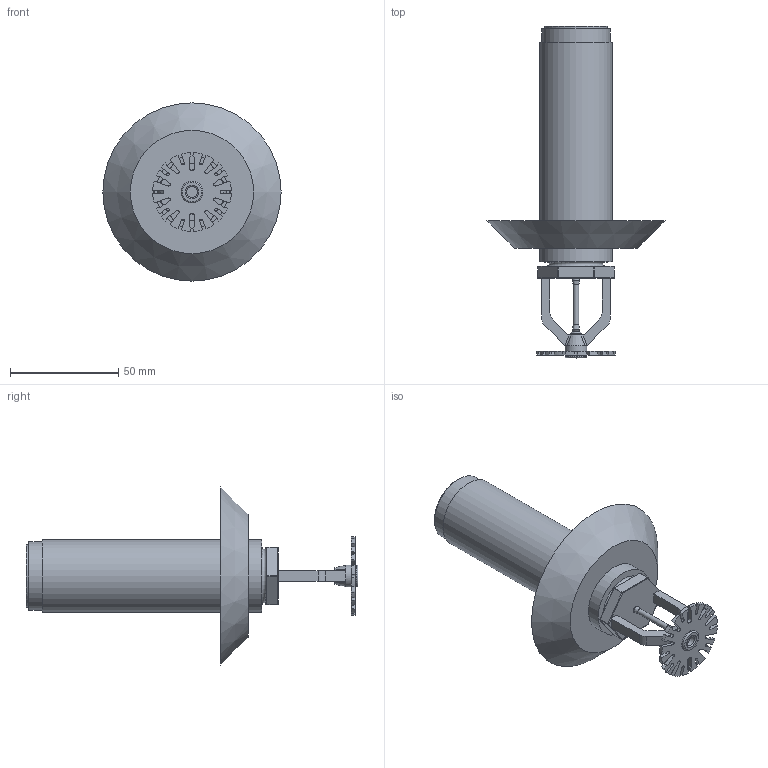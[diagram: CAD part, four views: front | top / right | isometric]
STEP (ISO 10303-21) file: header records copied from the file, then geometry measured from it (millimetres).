
FILE_DESCRIPTION(/* description */ ('VIC SPRINKLER V3608 K8.0 DRY PENDENT QUICK RESPONSE (BSPT)','CAx-IF Rec.Pracs.---Representation and Presentation of Product Manufacturing Information (PMI)---4.0---2014-10-13'),/* implementation_level */ '2;1');
FILE_NAME(/* name */ 'C:\Users\kkamble\AppData\Roaming\Autodesk\ApplicationPlugins\Victaulic.Temp\A771\Victaulic_FP-Sprinkler_V3608_DRY_QR_Pendent (BSPT)_SLEEVE & SKIRT_1 (25).stp',/* time_stamp */ '2021-03-29T16:29:20+06:00',/* author */ ('kkamble'),/* organization */ ('Victaulic'),/* preprocessor_version */ 'ST-DEVELOPER v17.2',/* originating_system */ 'Autodesk Inventor 2019',/* authorisation */ '');
FILE_SCHEMA (('AP242_MANAGED_MODEL_BASED_3D_ENGINEERING_MIM_LF { 1 0 10303 442 1 1 4 }'));
Length unit declared in the file: inch
Products named in the file (2): V3608_Sleeve & Skirt-01.0; V3608-01.0
Assembly tree (1 placements, depth 2):
  V3608_Sleeve & Skirt-01.0
    V3608-01.0
Bounding box: 82.55 x 153.67 x 82.55 mm (x, y, z)
Volume: 81807.1 mm3; surface area: 36110.5 mm2
Topology: 1 solids, 1 shells, 229 faces, 622 edges, 400 vertices
Faces by surface type: plane 108, cylinder 87, sphere 12, bspline 8, cone 7, torus 7
Full cylindrical faces by diameter (mm): 2.54 x1, 5.08 x2, 10.16 x2, 20.93 x1, 26.645 x1, 29.185 x1, 31.725 x1, 33.401 x2
Entity records: 7785 total; most frequent: CARTESIAN_POINT 1568, DIRECTION 1276, ORIENTED_EDGE 1234, EDGE_CURVE 617, AXIS2_PLACEMENT_3D 466, VERTEX_POINT 400, LINE 344, VECTOR 344
